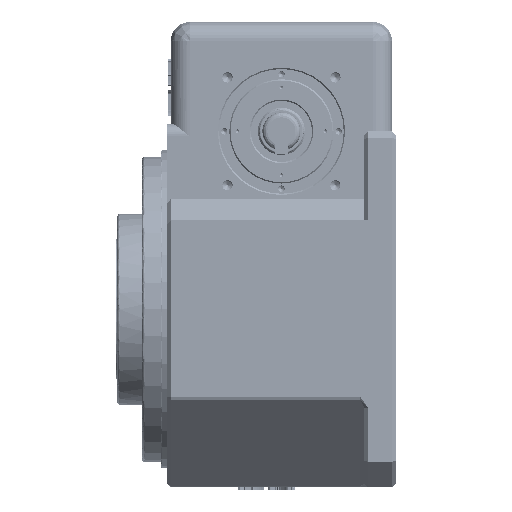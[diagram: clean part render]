
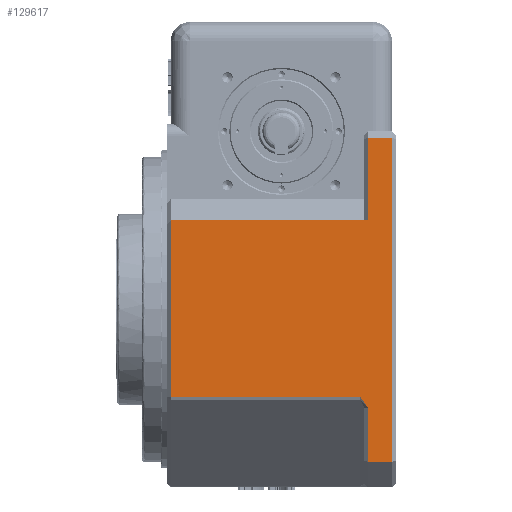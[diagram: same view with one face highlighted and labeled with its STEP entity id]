
A CAD part, left-side view. The second image highlights one B-rep face of the part: STEP entity #129617.
In plain terms, the highlighted planar face has unit normal (-1, 0, 0).
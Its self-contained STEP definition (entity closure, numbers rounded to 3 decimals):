
#57 = VECTOR ( 'NONE', #75559, 1000. ) ;
#1091 = CARTESIAN_POINT ( 'NONE',  ( -140., 3., -120. ) ) ;
#1945 = DIRECTION ( 'NONE',  ( 0., 0., -1. ) ) ;
#5760 = CARTESIAN_POINT ( 'NONE',  ( -140., 3., 135. ) ) ;
#8828 = CARTESIAN_POINT ( 'NONE',  ( -140., 22., 135. ) ) ;
#9506 = CARTESIAN_POINT ( 'NONE',  ( -140., 180., 70. ) ) ;
#12152 = EDGE_LOOP ( 'NONE', ( #101140, #23539, #40233, #152264, #55767, #107820, #92468, #155353, #158695 ) ) ;
#17745 = VECTOR ( 'NONE', #23186, 1000. ) ;
#20067 = EDGE_CURVE ( 'NONE', #165424, #141364, #43179, .T. ) ;
#23186 = DIRECTION ( 'NONE',  ( 0., 0., 1. ) ) ;
#23539 = ORIENTED_EDGE ( 'NONE', *, *, #157866, .F. ) ;
#29305 = VERTEX_POINT ( 'NONE', #1091 ) ;
#34528 = CARTESIAN_POINT ( 'NONE',  ( -140., 177., 135. ) ) ;
#34622 = DIRECTION ( 'NONE',  ( 0., 0.577, 0.816 ) ) ;
#40233 = ORIENTED_EDGE ( 'NONE', *, *, #159200, .F. ) ;
#41038 = VERTEX_POINT ( 'NONE', #5760 ) ;
#41694 = LINE ( 'NONE', #145433, #57 ) ;
#43179 = LINE ( 'NONE', #92246, #80411 ) ;
#43650 = AXIS2_PLACEMENT_3D ( 'NONE', #57681, #85847, #1945 ) ;
#43922 = LINE ( 'NONE', #9506, #76764 ) ;
#45447 = VECTOR ( 'NONE', #91127, 1000. ) ;
#48596 = DIRECTION ( 'NONE',  ( 0., 0., 1. ) ) ;
#49871 = VERTEX_POINT ( 'NONE', #170351 ) ;
#55213 = CARTESIAN_POINT ( 'NONE',  ( -140., 177., -68.757 ) ) ;
#55767 = ORIENTED_EDGE ( 'NONE', *, *, #124301, .T. ) ;
#57681 = CARTESIAN_POINT ( 'NONE',  ( -140., 180., 135. ) ) ;
#68086 = CARTESIAN_POINT ( 'NONE',  ( -140., 22., -77.243 ) ) ;
#69570 = VECTOR ( 'NONE', #34622, 1000. ) ;
#75559 = DIRECTION ( 'NONE',  ( 0., 0., 1. ) ) ;
#75612 = VECTOR ( 'NONE', #114034, 1000. ) ;
#76764 = VECTOR ( 'NONE', #164509, 1000. ) ;
#76954 = VERTEX_POINT ( 'NONE', #8828 ) ;
#77641 = CARTESIAN_POINT ( 'NONE',  ( -140., 180., 135. ) ) ;
#78855 = VERTEX_POINT ( 'NONE', #148248 ) ;
#80411 = VECTOR ( 'NONE', #149301, 1000. ) ;
#80987 = EDGE_CURVE ( 'NONE', #78855, #49871, #43922, .T. ) ;
#85847 = DIRECTION ( 'NONE',  ( 1., 0., 0. ) ) ;
#87109 = LINE ( 'NONE', #77641, #45447 ) ;
#91127 = DIRECTION ( 'NONE',  ( 0., 1., 0. ) ) ;
#92200 = LINE ( 'NONE', #92965, #17745 ) ;
#92246 = CARTESIAN_POINT ( 'NONE',  ( -140., 180., -68.757 ) ) ;
#92468 = ORIENTED_EDGE ( 'NONE', *, *, #80987, .F. ) ;
#92965 = CARTESIAN_POINT ( 'NONE',  ( -140., 3., 135. ) ) ;
#93794 = EDGE_CURVE ( 'NONE', #141364, #78855, #103525, .T. ) ;
#94988 = FACE_OUTER_BOUND ( 'NONE', #12152, .T. ) ;
#101140 = ORIENTED_EDGE ( 'NONE', *, *, #113543, .F. ) ;
#103525 = LINE ( 'NONE', #34528, #112367 ) ;
#104392 = CARTESIAN_POINT ( 'NONE',  ( -140., 22., -77.243 ) ) ;
#105631 = CARTESIAN_POINT ( 'NONE',  ( -140., 22., -120. ) ) ;
#107820 = ORIENTED_EDGE ( 'NONE', *, *, #143127, .F. ) ;
#112367 = VECTOR ( 'NONE', #48596, 1000. ) ;
#113543 = EDGE_CURVE ( 'NONE', #171268, #165424, #181411, .T. ) ;
#114034 = DIRECTION ( 'NONE',  ( 0., 0., 1. ) ) ;
#124301 = EDGE_CURVE ( 'NONE', #41038, #76954, #87109, .T. ) ;
#128017 = VERTEX_POINT ( 'NONE', #105631 ) ;
#129617 = ADVANCED_FACE ( 'NONE', ( #94988 ), #141622, .F. ) ;
#132474 = CARTESIAN_POINT ( 'NONE',  ( -140., 28., -68.757 ) ) ;
#135799 = CARTESIAN_POINT ( 'NONE',  ( -140., 180., -120. ) ) ;
#141364 = VERTEX_POINT ( 'NONE', #55213 ) ;
#141622 = PLANE ( 'NONE',  #43650 ) ;
#143127 = EDGE_CURVE ( 'NONE', #49871, #76954, #150215, .T. ) ;
#145433 = CARTESIAN_POINT ( 'NONE',  ( -140., 22., 135. ) ) ;
#148248 = CARTESIAN_POINT ( 'NONE',  ( -140., 177., 70. ) ) ;
#149301 = DIRECTION ( 'NONE',  ( 0., 1., 0. ) ) ;
#149941 = DIRECTION ( 'NONE',  ( 0., 1., 0. ) ) ;
#150215 = LINE ( 'NONE', #168641, #75612 ) ;
#152264 = ORIENTED_EDGE ( 'NONE', *, *, #175363, .T. ) ;
#155353 = ORIENTED_EDGE ( 'NONE', *, *, #93794, .F. ) ;
#157866 = EDGE_CURVE ( 'NONE', #128017, #171268, #41694, .T. ) ;
#158695 = ORIENTED_EDGE ( 'NONE', *, *, #20067, .F. ) ;
#159200 = EDGE_CURVE ( 'NONE', #29305, #128017, #164233, .T. ) ;
#159823 = VECTOR ( 'NONE', #149941, 1000. ) ;
#164233 = LINE ( 'NONE', #135799, #159823 ) ;
#164509 = DIRECTION ( 'NONE',  ( 0., -1., 0. ) ) ;
#165424 = VERTEX_POINT ( 'NONE', #132474 ) ;
#168641 = CARTESIAN_POINT ( 'NONE',  ( -140., 22., 135. ) ) ;
#170351 = CARTESIAN_POINT ( 'NONE',  ( -140., 22., 70. ) ) ;
#171268 = VERTEX_POINT ( 'NONE', #68086 ) ;
#175363 = EDGE_CURVE ( 'NONE', #29305, #41038, #92200, .T. ) ;
#181411 = LINE ( 'NONE', #104392, #69570 ) ;
